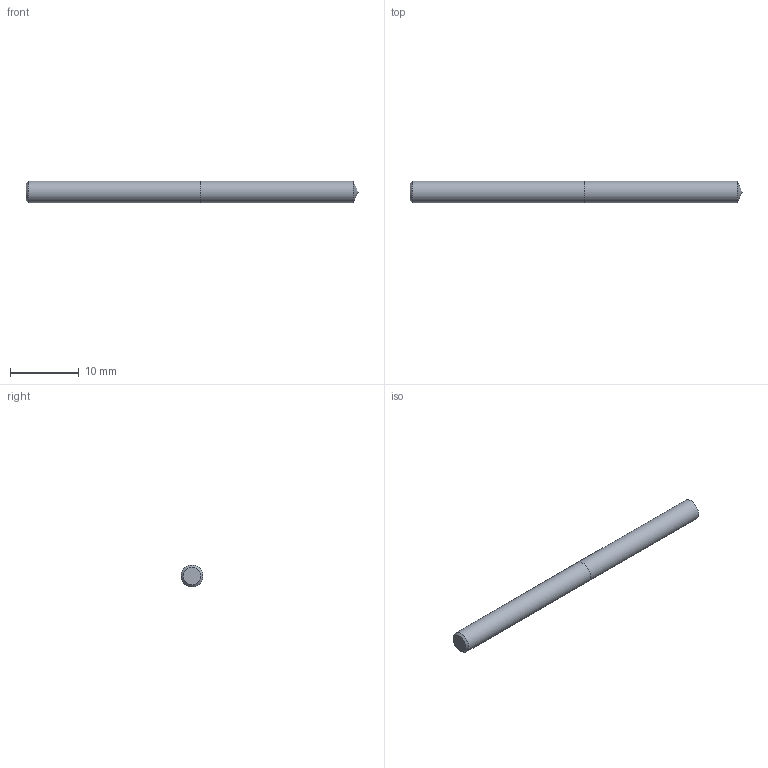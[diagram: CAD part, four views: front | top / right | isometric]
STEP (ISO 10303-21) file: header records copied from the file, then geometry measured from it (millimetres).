
FILE_DESCRIPTION (( 'STEP AP214' ), '1' );
FILE_NAME ('03-2407.STEP', '2022-06-03T07:21:35', ( 'USER' ), ( '' ), 'SwSTEP 2.0', 'SolidWorks 2018', '' );
FILE_SCHEMA (( 'AUTOMOTIVE_DESIGN' ));
Length unit declared in the file: inch
Products named in the file (1): 03-2407
Bounding box: 48.28 x 3.17 x 3.17 mm (x, y, z)
Volume: 378.3 mm3; surface area: 505.4 mm2
Topology: 2 solids, 2 shells, 7 faces, 11 edges, 7 vertices
Faces by surface type: plane 3, cylinder 2, cone 2
Full cylindrical faces by diameter (mm): 3.175 x2
Entity records: 214 total; most frequent: DIRECTION 26, CARTESIAN_POINT 18, AXIS2_PLACEMENT_3D 13, EDGE_LOOP 10, ORIENTED_EDGE 10, FACE_OUTER_BOUND 9, DIMENSIONAL_EXPONENTS 7, ADVANCED_FACE 7
